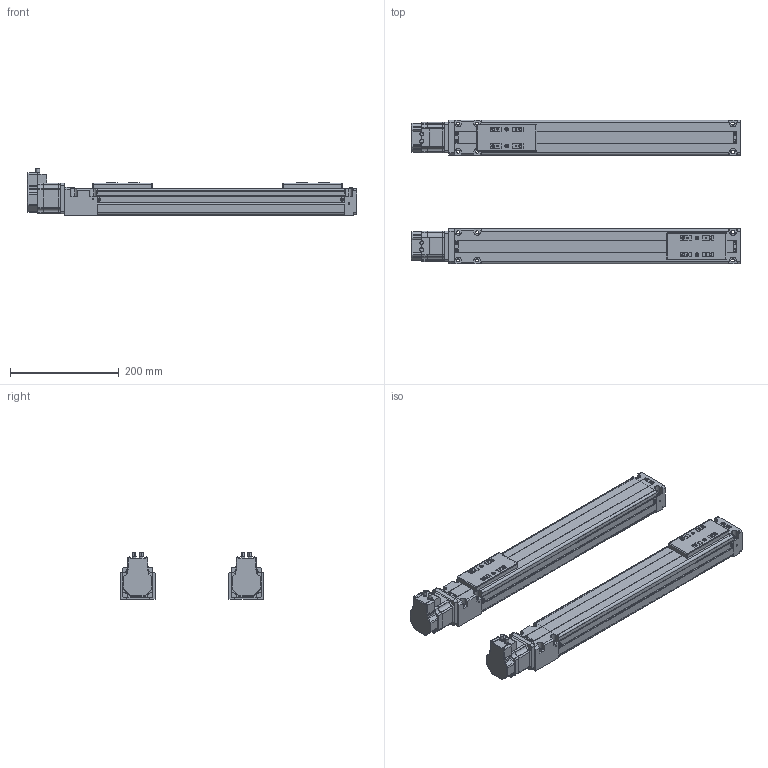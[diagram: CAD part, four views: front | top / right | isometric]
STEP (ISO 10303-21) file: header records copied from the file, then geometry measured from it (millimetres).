
FILE_DESCRIPTION(('STEP AP214'),'1');
FILE_NAME('Z:\外形図\3D DAD2\SCLT6_B\tmp0.step',' ',(' '),(' '),'XStep 1.0',' ',' ');
FILE_SCHEMA(('automotive_design'));
Length unit declared in the file: millimetre
Products named in the file (20): 12; VLAST60-06-0350-0-0N (0) (350)|_VLA-ST-60-12-0050 Slider;_VLA-ST-60-12-0050 Slider; 4; 5; 1; 3; VLAST60-06-0350-0-0N (0) (350)|_VLA-ST-60-12-0350 Body;_VLA-ST-60-12-0350 Body; 6; 11; 9; 2; 7; 8; 10
Bounding box: 606 x 264 x 85.99 mm (x, y, z)
Volume: 1458945.3 mm3; surface area: 664437 mm2
Topology: 20 solids, 20 shells, 1682 faces, 4422 edges, 2792 vertices
Faces by surface type: plane 992, cylinder 432, cone 172, bspline 78, sphere 8
Entity records: 67591 total; most frequent: CARTESIAN_POINT 11558, ORIENTED_EDGE 8796, DIRECTION 8694, EDGE_CURVE 4398, LINE 3166, VECTOR 3166, VERTEX_POINT 2792, AXIS2_PLACEMENT_3D 2764
